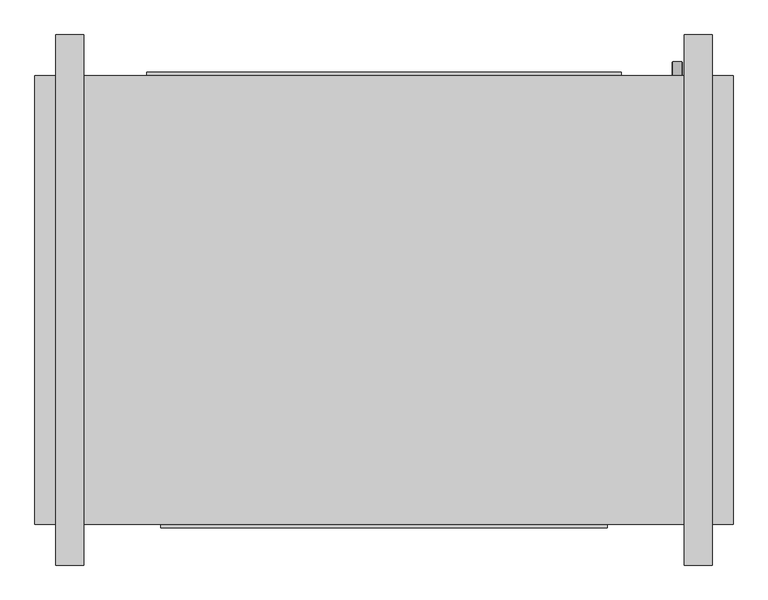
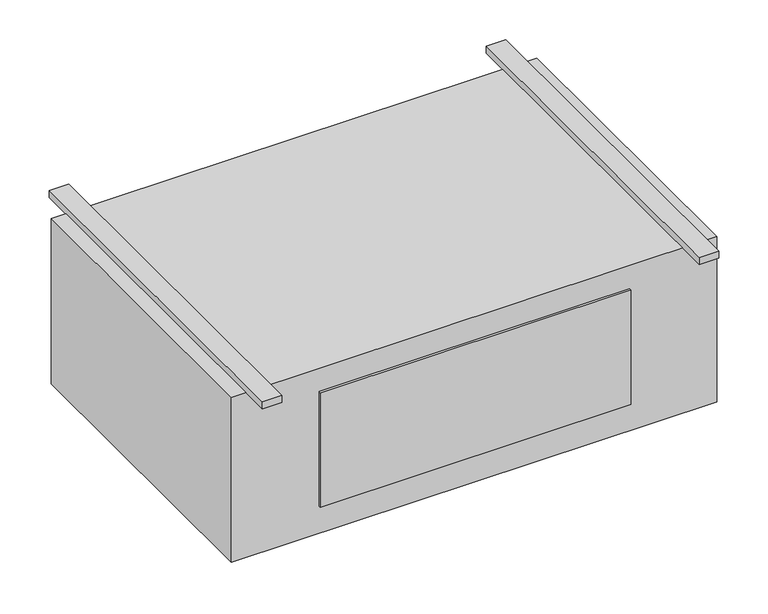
"""IFC4 building model written with IfcOpenShell, lengths in millimetres: proxy geometry, Exposed_High_Capacity_Horizontal_Cabinet_Fan_Coil_Unit_-_42DFA_-_CARRIER_-_4-Pipe_RH_2022 : Size 14 - 277v/60Hz/1Ph - 6/2 Coil."""

from ifc_helpers import new_model, si_unit, point, frame, frame_2d, origin, origin_with_axes, place, context, project, spatial, polyline, circle_curve, trimmed, segment, composite_curve, outline, extrude, source, transform, mapped, element, save


def mechanical_equipment_9f4dc20a(model_context):
    return source(origin(), model_context, "Body", "SweptSolid", [
        extrude(outline(composite_curve([segment(trimmed(circle_curve(frame_2d((-406.4, 685.8)), 9.525), [point((-406.4, 676.275))], [point((-406.4, 695.325))], False, "CARTESIAN"), True, "CONTINUOUS"), segment(trimmed(circle_curve(frame_2d((-406.4, 685.8)), 9.525), [point((-406.4, 695.325))], [point((-406.4, 676.275))], False, "CARTESIAN"), True, "CONTINUOUS")], self_intersect=False)), frame((0.0, 169.8625, 0.0), z_axis=(0.0, 1.0, 0.0), x_axis=(0.0, 0.0, 1.0)), (0.0, 0.0, 1.0), 25.4),
        extrude(outline(composite_curve([segment(trimmed(circle_curve(frame_2d((-330.2, 685.8)), 7.9375), [point((-330.2, 677.8625))], [point((-330.2, 693.7375))], False, "CARTESIAN"), True, "CONTINUOUS"), segment(trimmed(circle_curve(frame_2d((-330.2, 685.8)), 7.9375), [point((-330.2, 693.7375))], [point((-330.2, 677.8625))], False, "CARTESIAN"), True, "CONTINUOUS")], self_intersect=False)), frame((0.0, 169.8625, 0.0), z_axis=(0.0, 1.0, 0.0), x_axis=(0.0, 0.0, 1.0)), (0.0, 0.0, 1.0), 25.4),
        extrude(outline(composite_curve([segment(trimmed(circle_curve(frame_2d((-254.0, 685.8)), 7.9375), [point((-254.0, 677.8625))], [point((-254.0, 693.7375))], False, "CARTESIAN"), True, "CONTINUOUS"), segment(trimmed(circle_curve(frame_2d((-254.0, 685.8)), 7.9375), [point((-254.0, 693.7375))], [point((-254.0, 677.8625))], False, "CARTESIAN"), True, "CONTINUOUS")], self_intersect=False)), frame((0.0, 169.8625, 0.0), z_axis=(0.0, 1.0, 0.0), x_axis=(0.0, 0.0, 1.0)), (0.0, 0.0, 1.0), 25.4),
        extrude(outline(composite_curve([segment(trimmed(circle_curve(frame_2d((-177.8, 685.8)), 7.9375), [point((-177.8, 677.8625))], [point((-177.8, 693.7375))], False, "CARTESIAN"), True, "CONTINUOUS"), segment(trimmed(circle_curve(frame_2d((-177.8, 685.8)), 7.9375), [point((-177.8, 693.7375))], [point((-177.8, 677.8625))], False, "CARTESIAN"), True, "CONTINUOUS")], self_intersect=False)), frame((0.0, 169.8625, 0.0), z_axis=(0.0, 1.0, 0.0), x_axis=(0.0, 0.0, 1.0)), (0.0, 0.0, 1.0), 25.4),
        extrude(outline(composite_curve([segment(trimmed(circle_curve(frame_2d((-101.6, 685.8)), 7.9375), [point((-101.6, 677.8625))], [point((-101.6, 693.7375))], False, "CARTESIAN"), True, "CONTINUOUS"), segment(trimmed(circle_curve(frame_2d((-101.6, 685.8)), 7.9375), [point((-101.6, 693.7375))], [point((-101.6, 677.8625))], False, "CARTESIAN"), True, "CONTINUOUS")], self_intersect=False)), frame((0.0, 169.8625, 0.0), z_axis=(0.0, 1.0, 0.0), x_axis=(0.0, 0.0, 1.0)), (0.0, 0.0, 1.0), 25.4),
        extrude(outline(polyline([(787.4, 169.8625), (787.4, -646.1125), (-482.6, -646.1125), (-482.6, 169.8625), (787.4, 169.8625)])), frame((0.0, 0.0, -457.2), z_axis=(0.0, 0.0, 1.0), x_axis=(1.0, 0.0, 0.0)), (0.0, 0.0, 1.0), 457.2),
        extrude(outline(polyline([(-279.4, 176.2125), (584.2, 176.2125), (584.2, 169.8625), (-279.4, 169.8625), (-279.4, 176.2125)])), frame((0.0, 0.0, -381.0), z_axis=(0.0, 0.0, 1.0), x_axis=(1.0, 0.0, 0.0)), (0.0, 0.0, 1.0), 355.6),
        extrude(outline(polyline([(-393.7, 244.475), (-393.7, -720.725), (-444.5, -720.725), (-444.5, 244.475), (-393.7, 244.475)])), origin_with_axes(), (0.0, 0.0, 1.0), 19.05),
        extrude(outline(polyline([(749.3, 244.475), (749.3, -720.725), (698.5, -720.725), (698.5, 244.475), (749.3, 244.475)])), origin_with_axes(), (0.0, 0.0, 1.0), 19.05),
        extrude(outline(polyline([(558.8, -652.4625), (-254.0, -652.4625), (-254.0, -646.1125), (558.8, -646.1125), (558.8, -652.4625)])), frame((0.0, 0.0, -381.0), z_axis=(0.0, 0.0, 1.0), x_axis=(1.0, 0.0, 0.0)), (0.0, 0.0, 1.0), 317.5),
    ])


if __name__ == "__main__":
    model = new_model("IFC4")
    model_context = context("Model", 3, world=origin())
    ifc_project = project(units=[si_unit("LENGTHUNIT", "METRE", prefix="MILLI")], contexts=[model_context])
    site = spatial("IfcSite", under=ifc_project)
    building = spatial("IfcBuilding", under=site)
    placement = place(None, origin())
    mechanical_equipment_shape = mechanical_equipment_9f4dc20a(model_context)
    element("IfcBuildingElementProxy", 1, Name="Exposed_High_Capacity_Horizontal_Cabinet_Fan_Coil_Unit_-_42DFA_-_CARRIER_-_4-Pipe_RH_2022 : Size 14 - 277v/60Hz/1Ph - 6/2 Coil", ObjectType="Exposed_High_Capacity_Horizontal_Cabinet_Fan_Coil_Unit_-_42DFA_-_CARRIER_-_4-Pipe_RH_2022 : Size 14 - 277v/60Hz/1Ph - 6/2 Coil", at=placement, inside=building, context=model_context, shape_type="MappedRepresentation", body=[
        mapped(mechanical_equipment_shape, transform((0.0, 0.0, 0.0), x_axis=(1.0, 0.0, 0.0), y_axis=(0.0, 1.0, 0.0), z_axis=(0.0, 0.0, 1.0))),
    ])
    save(model, "model.ifc")
